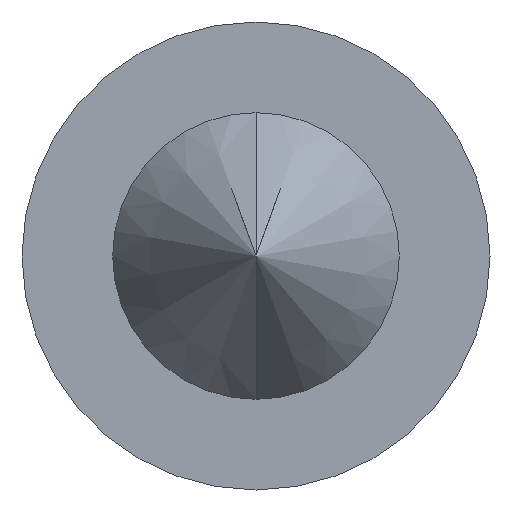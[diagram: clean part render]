
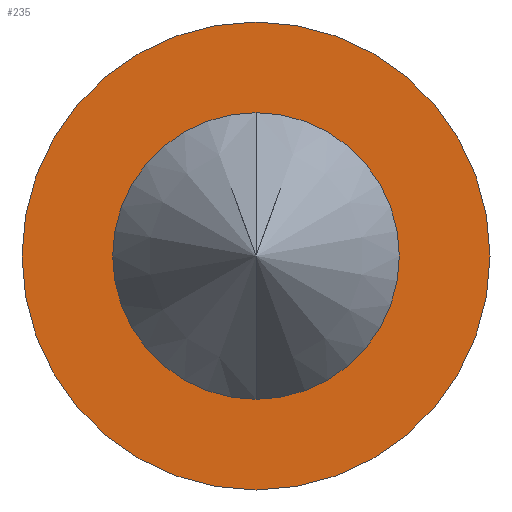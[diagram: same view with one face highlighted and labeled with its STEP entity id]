
A CAD part, front view. The second image highlights one B-rep face of the part: STEP entity #235.
In plain terms, the highlighted planar face has unit normal (0, -1, 0).
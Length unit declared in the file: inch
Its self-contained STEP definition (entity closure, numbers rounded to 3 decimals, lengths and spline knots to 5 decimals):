
#5 = ORIENTED_EDGE ( 'NONE', *, *, #322, .T. ) ;
#8 = ORIENTED_EDGE ( 'NONE', *, *, #254, .F. ) ;
#17 = PLANE ( 'NONE',  #191 ) ;
#28 = ORIENTED_EDGE ( 'NONE', *, *, #274, .T. ) ;
#34 = DIRECTION ( 'NONE',  ( 0., -1., 0. ) ) ;
#37 = CARTESIAN_POINT ( 'NONE',  ( 0., -0.25084, 0. ) ) ;
#49 = DIRECTION ( 'NONE',  ( 0., 0., -1. ) ) ;
#56 = FACE_BOUND ( 'NONE', #250, .T. ) ;
#70 = AXIS2_PLACEMENT_3D ( 'NONE', #122, #211, #179 ) ;
#98 = VERTEX_POINT ( 'NONE', #139 ) ;
#109 = CARTESIAN_POINT ( 'NONE',  ( 0., -0.25084, 0.121 ) ) ;
#118 = CARTESIAN_POINT ( 'NONE',  ( 0., -0.25084, -0.1975 ) ) ;
#120 = CIRCLE ( 'NONE', #202, 0.1975 ) ;
#122 = CARTESIAN_POINT ( 'NONE',  ( 0., -0.25084, 0. ) ) ;
#128 = VERTEX_POINT ( 'NONE', #109 ) ;
#135 = VERTEX_POINT ( 'NONE', #118 ) ;
#139 = CARTESIAN_POINT ( 'NONE',  ( 0., -0.25084, 0.1975 ) ) ;
#164 = DIRECTION ( 'NONE',  ( 0., -1., 0. ) ) ;
#166 = ORIENTED_EDGE ( 'NONE', *, *, #369, .F. ) ;
#178 = AXIS2_PLACEMENT_3D ( 'NONE', #361, #212, #363 ) ;
#179 = DIRECTION ( 'NONE',  ( 0., 0., -1. ) ) ;
#181 = CARTESIAN_POINT ( 'NONE',  ( 0., -0.25084, 0. ) ) ;
#184 = CARTESIAN_POINT ( 'NONE',  ( 0., -0.25084, -0.121 ) ) ;
#191 = AXIS2_PLACEMENT_3D ( 'NONE', #241, #358, #49 ) ;
#202 = AXIS2_PLACEMENT_3D ( 'NONE', #37, #34, #367 ) ;
#210 = CIRCLE ( 'NONE', #70, 0.121 ) ;
#211 = DIRECTION ( 'NONE',  ( 0., -1., 0. ) ) ;
#212 = DIRECTION ( 'NONE',  ( 0., -1., 0. ) ) ;
#232 = CIRCLE ( 'NONE', #178, 0.121 ) ;
#235 = ADVANCED_FACE ( 'NONE', ( #265, #56 ), #17, .T. ) ;
#241 = CARTESIAN_POINT ( 'NONE',  ( 0., -0.25084, -0.121 ) ) ;
#250 = EDGE_LOOP ( 'NONE', ( #166, #8 ) ) ;
#254 = EDGE_CURVE ( 'NONE', #128, #370, #210, .T. ) ;
#265 = FACE_OUTER_BOUND ( 'NONE', #341, .T. ) ;
#273 = DIRECTION ( 'NONE',  ( 0., 0., -1. ) ) ;
#274 = EDGE_CURVE ( 'NONE', #98, #135, #315, .T. ) ;
#315 = CIRCLE ( 'NONE', #385, 0.1975 ) ;
#322 = EDGE_CURVE ( 'NONE', #135, #98, #120, .T. ) ;
#341 = EDGE_LOOP ( 'NONE', ( #5, #28 ) ) ;
#358 = DIRECTION ( 'NONE',  ( 0., -1., 0. ) ) ;
#361 = CARTESIAN_POINT ( 'NONE',  ( 0., -0.25084, 0. ) ) ;
#363 = DIRECTION ( 'NONE',  ( 0., 0., -1. ) ) ;
#367 = DIRECTION ( 'NONE',  ( 0., 0., -1. ) ) ;
#369 = EDGE_CURVE ( 'NONE', #370, #128, #232, .T. ) ;
#370 = VERTEX_POINT ( 'NONE', #184 ) ;
#385 = AXIS2_PLACEMENT_3D ( 'NONE', #181, #164, #273 ) ;
